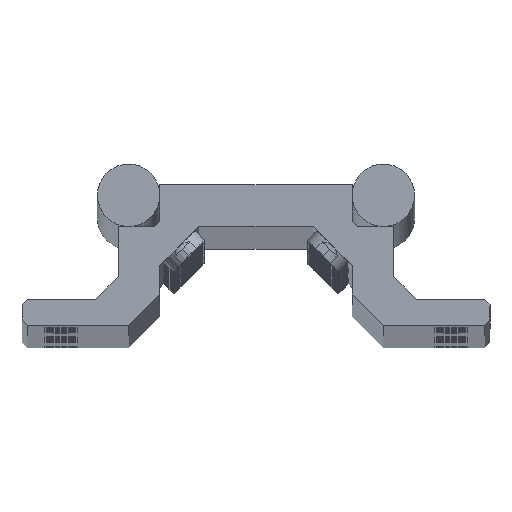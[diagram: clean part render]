
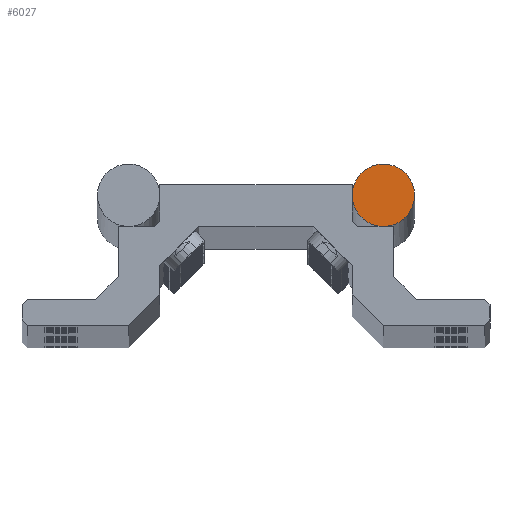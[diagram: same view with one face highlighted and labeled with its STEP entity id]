
A CAD part, top view. The second image highlights one B-rep face of the part: STEP entity #6027.
In plain terms, the highlighted planar face has unit normal (0, 0, 1).
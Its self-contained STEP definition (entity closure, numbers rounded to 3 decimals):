
#5996 = EDGE_CURVE ( 'NONE', #21428, #21400, #16293, .T. ) ;
#6027 = ADVANCED_FACE ( 'NONE', ( #16310 ), #16309, .T. ) ;
#6028 = EDGE_LOOP ( 'NONE', ( #6031, #6063 ) ) ;
#6031 = ORIENTED_EDGE ( 'NONE', *, *, #21346, .T. ) ;
#6063 = ORIENTED_EDGE ( 'NONE', *, *, #5996, .T. ) ;
#16289 = DIRECTION ( 'NONE',  ( 1., 0., 0. ) ) ;
#16290 = DIRECTION ( 'NONE',  ( 0., 0., 1. ) ) ;
#16291 = CARTESIAN_POINT ( 'NONE',  ( 24.5, 25., 1. ) ) ;
#16292 = AXIS2_PLACEMENT_3D ( 'NONE', #16291, #16290, #16289 ) ;
#16293 = CIRCLE ( 'NONE', #16292, 6. ) ;
#16305 = DIRECTION ( 'NONE',  ( 1., 0., 0. ) ) ;
#16306 = DIRECTION ( 'NONE',  ( 0., 0., 1. ) ) ;
#16307 = CARTESIAN_POINT ( 'NONE',  ( 24.5, 25., 1. ) ) ;
#16308 = AXIS2_PLACEMENT_3D ( 'NONE', #16307, #16306, #16305 ) ;
#16309 = PLANE ( 'NONE',  #16308 ) ;
#16310 = FACE_OUTER_BOUND ( 'NONE', #6028, .T. ) ;
#21346 = EDGE_CURVE ( 'NONE', #21400, #21428, #31829, .T. ) ;
#21400 = VERTEX_POINT ( 'NONE', #31993 ) ;
#21428 = VERTEX_POINT ( 'NONE', #32073 ) ;
#31826 = DIRECTION ( 'NONE',  ( 0., 0., 1. ) ) ;
#31827 = CARTESIAN_POINT ( 'NONE',  ( 24.5, 25., 1. ) ) ;
#31828 = AXIS2_PLACEMENT_3D ( 'NONE', #31827, #31826, #31883 ) ;
#31829 = CIRCLE ( 'NONE', #31828, 6. ) ;
#31883 = DIRECTION ( 'NONE',  ( 1., 0., 0. ) ) ;
#31993 = CARTESIAN_POINT ( 'NONE',  ( 30.5, 25., 1. ) ) ;
#32073 = CARTESIAN_POINT ( 'NONE',  ( 18.5, 25., 1. ) ) ;
